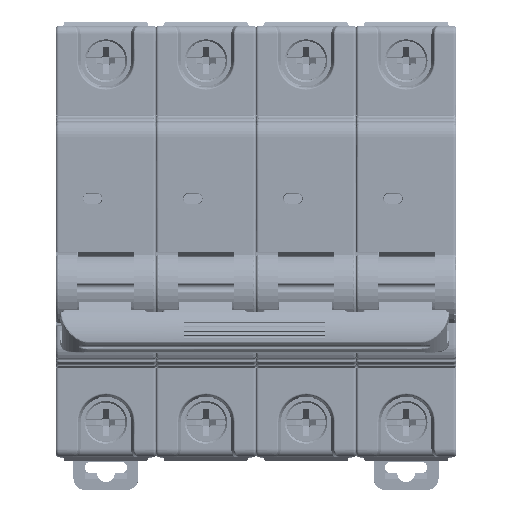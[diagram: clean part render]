
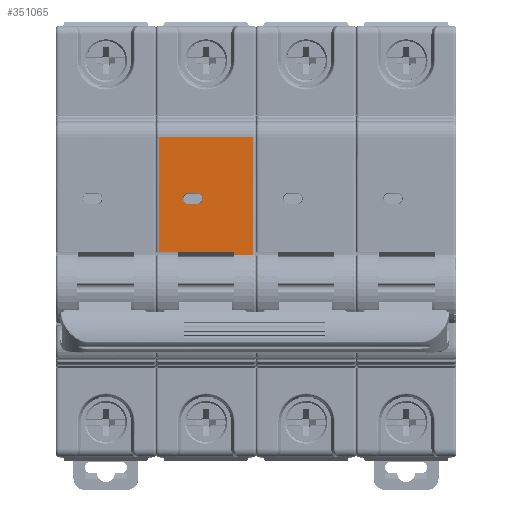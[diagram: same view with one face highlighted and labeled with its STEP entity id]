
A CAD part, top view. The second image highlights one B-rep face of the part: STEP entity #351065.
In plain terms, the highlighted planar face has unit normal (0, 0, 1) as drawn and (0, 1, 0) by its records, which use the part's own axes.
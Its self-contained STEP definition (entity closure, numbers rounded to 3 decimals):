
#4640 = VERTEX_POINT ( 'NONE', #249599 ) ;
#5075 = CIRCLE ( 'NONE', #80730, 1. ) ;
#5927 = DIRECTION ( 'NONE',  ( -1., 0., 0. ) ) ;
#7691 = CARTESIAN_POINT ( 'NONE',  ( 8.6, 14., 23.6 ) ) ;
#15581 = DIRECTION ( 'NONE',  ( 0., 0., -1. ) ) ;
#19807 = CARTESIAN_POINT ( 'NONE',  ( -1.974, 14., 21.8 ) ) ;
#24084 = CARTESIAN_POINT ( 'NONE',  ( -2.393, 14., 35.1 ) ) ;
#24874 = VERTEX_POINT ( 'NONE', #227640 ) ;
#26902 = VERTEX_POINT ( 'NONE', #340775 ) ;
#28757 = DIRECTION ( 'NONE',  ( 0., 0., -1. ) ) ;
#32349 = VECTOR ( 'NONE', #201378, 1000. ) ;
#37077 = EDGE_CURVE ( 'NONE', #43999, #284266, #355698, .T. ) ;
#38857 = LINE ( 'NONE', #170389, #357921 ) ;
#40911 = DIRECTION ( 'NONE',  ( 0., -1., 0. ) ) ;
#43999 = VERTEX_POINT ( 'NONE', #350964 ) ;
#56063 = ORIENTED_EDGE ( 'NONE', *, *, #300761, .T. ) ;
#65815 = AXIS2_PLACEMENT_3D ( 'NONE', #105632, #40911, #172457 ) ;
#66384 = CARTESIAN_POINT ( 'NONE',  ( 7.6, 14., 23.6 ) ) ;
#74170 = VERTEX_POINT ( 'NONE', #376804 ) ;
#75736 = ORIENTED_EDGE ( 'NONE', *, *, #162940, .F. ) ;
#80730 = AXIS2_PLACEMENT_3D ( 'NONE', #66384, #197914, #5927 ) ;
#82313 = FACE_OUTER_BOUND ( 'NONE', #201552, .T. ) ;
#93169 = VECTOR ( 'NONE', #239841, 1000. ) ;
#102368 = CARTESIAN_POINT ( 'NONE',  ( 7.6, 14., 25.1 ) ) ;
#104035 = LINE ( 'NONE', #235614, #93169 ) ;
#104265 = LINE ( 'NONE', #205610, #32349 ) ;
#105632 = CARTESIAN_POINT ( 'NONE',  ( 7.6, 14., 25.1 ) ) ;
#108972 = LINE ( 'NONE', #7691, #245638 ) ;
#114660 = CARTESIAN_POINT ( 'NONE',  ( -2.393, 14., 35.6 ) ) ;
#119379 = AXIS2_PLACEMENT_3D ( 'NONE', #102368, #305084, #371871 ) ;
#124969 = CARTESIAN_POINT ( 'NONE',  ( -2.393, 14., 31.75 ) ) ;
#125367 = VECTOR ( 'NONE', #392322, 1000. ) ;
#130475 = VECTOR ( 'NONE', #231852, 1000. ) ;
#150576 = ORIENTED_EDGE ( 'NONE', *, *, #321458, .F. ) ;
#155750 = ORIENTED_EDGE ( 'NONE', *, *, #357616, .F. ) ;
#162940 = EDGE_CURVE ( 'NONE', #410301, #74170, #104035, .T. ) ;
#165082 = VECTOR ( 'NONE', #334905, 1000. ) ;
#170389 = CARTESIAN_POINT ( 'NONE',  ( -1.974, 14., 21.8 ) ) ;
#172457 = DIRECTION ( 'NONE',  ( 1., 0., 0. ) ) ;
#181608 = LINE ( 'NONE', #24084, #383501 ) ;
#183712 = LINE ( 'NONE', #19807, #276968 ) ;
#189485 = EDGE_CURVE ( 'NONE', #343514, #4640, #5075, .T. ) ;
#190352 = VERTEX_POINT ( 'NONE', #293268 ) ;
#195847 = CARTESIAN_POINT ( 'NONE',  ( -1.974, 14., 21.8 ) ) ;
#197914 = DIRECTION ( 'NONE',  ( 0., -1., 0. ) ) ;
#201378 = DIRECTION ( 'NONE',  ( 0., 0., -1. ) ) ;
#201552 = EDGE_LOOP ( 'NONE', ( #75736, #155750, #321720, #254048, #204224, #383476, #150576 ) ) ;
#203394 = CARTESIAN_POINT ( 'NONE',  ( 18.5, 14., 35.1 ) ) ;
#204224 = ORIENTED_EDGE ( 'NONE', *, *, #210665, .F. ) ;
#205610 = CARTESIAN_POINT ( 'NONE',  ( 6.6, 14., 25.1 ) ) ;
#208628 = CARTESIAN_POINT ( 'NONE',  ( 6.6, 14., 23.6 ) ) ;
#210665 = EDGE_CURVE ( 'NONE', #190352, #43999, #181608, .T. ) ;
#224760 = EDGE_CURVE ( 'NONE', #26902, #343514, #104265, .T. ) ;
#227640 = CARTESIAN_POINT ( 'NONE',  ( 7.6, 14., 26.1 ) ) ;
#231852 = DIRECTION ( 'NONE',  ( 0., 0., 1. ) ) ;
#235614 = CARTESIAN_POINT ( 'NONE',  ( -1.974, 14., 18.3 ) ) ;
#239841 = DIRECTION ( 'NONE',  ( 1., 0., 0. ) ) ;
#241908 = LINE ( 'NONE', #373465, #130475 ) ;
#245638 = VECTOR ( 'NONE', #301008, 1000. ) ;
#249599 = CARTESIAN_POINT ( 'NONE',  ( 8.6, 14., 23.6 ) ) ;
#254048 = ORIENTED_EDGE ( 'NONE', *, *, #37077, .F. ) ;
#272925 = VERTEX_POINT ( 'NONE', #341316 ) ;
#276968 = VECTOR ( 'NONE', #414461, 1000. ) ;
#278605 = FACE_BOUND ( 'NONE', #373885, .T. ) ;
#284266 = VERTEX_POINT ( 'NONE', #346961 ) ;
#285285 = ORIENTED_EDGE ( 'NONE', *, *, #189485, .T. ) ;
#293268 = CARTESIAN_POINT ( 'NONE',  ( -2.393, 14., 35.1 ) ) ;
#294848 = ORIENTED_EDGE ( 'NONE', *, *, #304947, .T. ) ;
#300761 = EDGE_CURVE ( 'NONE', #272925, #24874, #305460, .T. ) ;
#301008 = DIRECTION ( 'NONE',  ( 0., 0., 1. ) ) ;
#304947 = EDGE_CURVE ( 'NONE', #24874, #26902, #354838, .T. ) ;
#305084 = DIRECTION ( 'NONE',  ( 0., -1., 0. ) ) ;
#305460 = CIRCLE ( 'NONE', #119379, 1. ) ;
#321458 = EDGE_CURVE ( 'NONE', #74170, #391789, #241908, .T. ) ;
#321720 = ORIENTED_EDGE ( 'NONE', *, *, #415857, .T. ) ;
#332775 = LINE ( 'NONE', #203394, #165082 ) ;
#333966 = ORIENTED_EDGE ( 'NONE', *, *, #224760, .T. ) ;
#334905 = DIRECTION ( 'NONE',  ( -1., 0., 0. ) ) ;
#340775 = CARTESIAN_POINT ( 'NONE',  ( 6.6, 14., 25.1 ) ) ;
#341316 = CARTESIAN_POINT ( 'NONE',  ( 8.6, 14., 25.1 ) ) ;
#343267 = DIRECTION ( 'NONE',  ( 0., 1., 0. ) ) ;
#343514 = VERTEX_POINT ( 'NONE', #208628 ) ;
#346570 = CARTESIAN_POINT ( 'NONE',  ( -1.974, 14., 18.3 ) ) ;
#346961 = CARTESIAN_POINT ( 'NONE',  ( -1.974, 14., 31.75 ) ) ;
#350964 = CARTESIAN_POINT ( 'NONE',  ( -2.393, 14., 31.75 ) ) ;
#351065 = ADVANCED_FACE ( 'NONE', ( #82313, #278605 ), #410115, .T. ) ;
#354838 = CIRCLE ( 'NONE', #65815, 1. ) ;
#355698 = LINE ( 'NONE', #124969, #125367 ) ;
#357616 = EDGE_CURVE ( 'NONE', #360518, #410301, #38857, .T. ) ;
#357921 = VECTOR ( 'NONE', #28757, 1000. ) ;
#360518 = VERTEX_POINT ( 'NONE', #195847 ) ;
#371871 = DIRECTION ( 'NONE',  ( 1., 0., 0. ) ) ;
#373465 = CARTESIAN_POINT ( 'NONE',  ( 18.5, 14., 18.3 ) ) ;
#373885 = EDGE_LOOP ( 'NONE', ( #382330, #56063, #294848, #333966, #285285 ) ) ;
#376804 = CARTESIAN_POINT ( 'NONE',  ( 18.5, 14., 18.3 ) ) ;
#376995 = CARTESIAN_POINT ( 'NONE',  ( 18.5, 14., 35.1 ) ) ;
#382043 = DIRECTION ( 'NONE',  ( 0., 0., -1. ) ) ;
#382330 = ORIENTED_EDGE ( 'NONE', *, *, #418616, .T. ) ;
#383083 = AXIS2_PLACEMENT_3D ( 'NONE', #114660, #343267, #382043 ) ;
#383476 = ORIENTED_EDGE ( 'NONE', *, *, #399393, .F. ) ;
#383501 = VECTOR ( 'NONE', #15581, 1000. ) ;
#391789 = VERTEX_POINT ( 'NONE', #376995 ) ;
#392322 = DIRECTION ( 'NONE',  ( 1., 0., 0. ) ) ;
#399393 = EDGE_CURVE ( 'NONE', #391789, #190352, #332775, .T. ) ;
#410115 = PLANE ( 'NONE',  #383083 ) ;
#410301 = VERTEX_POINT ( 'NONE', #346570 ) ;
#414461 = DIRECTION ( 'NONE',  ( 0., 0., 1. ) ) ;
#415857 = EDGE_CURVE ( 'NONE', #360518, #284266, #183712, .T. ) ;
#418616 = EDGE_CURVE ( 'NONE', #4640, #272925, #108972, .T. ) ;
